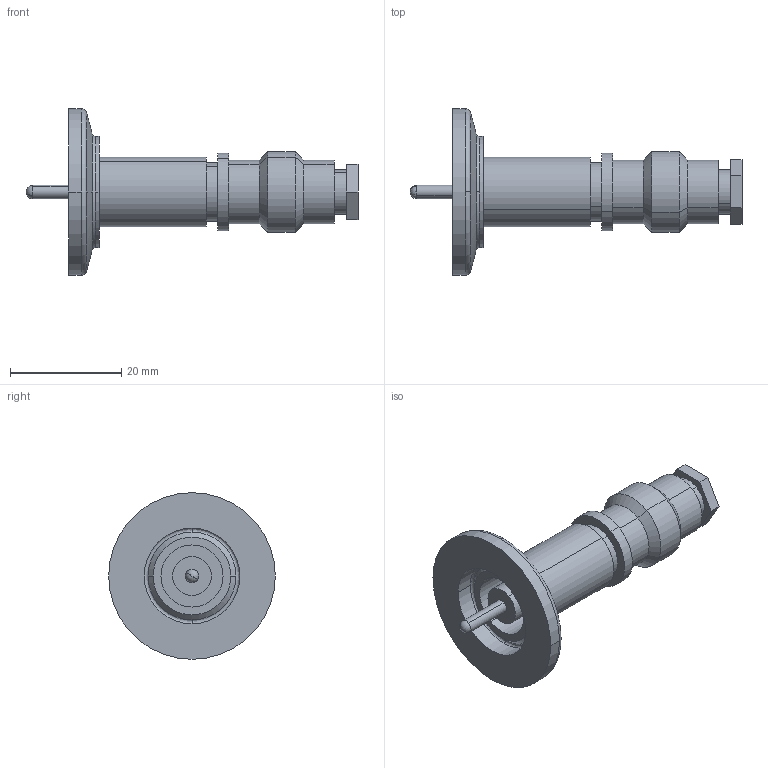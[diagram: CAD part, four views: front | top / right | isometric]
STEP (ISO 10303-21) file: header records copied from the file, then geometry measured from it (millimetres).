
FILE_DESCRIPTION((''),'2;1');
FILE_NAME('W:\214-151.stp','2004-01-23T14:03:42',('KAA'),(''),'Autodesk Inventor (R) 6.0','Autodesk Inventor (R) 6.0','');
FILE_SCHEMA(('CONFIG_CONTROL_DESIGN'));
Length unit declared in the file: millimetre
Products named in the file (1): 214-151
Bounding box: 59.8 x 30 x 30 mm (x, y, z)
Volume: 6827.2 mm3; surface area: 5198.2 mm2
Topology: 1 solids, 1 shells, 63 faces, 148 edges, 92 vertices
Faces by surface type: cylinder 26, plane 17, cone 8, bspline 8, torus 2, sphere 2
Entity records: 2105 total; most frequent: CARTESIAN_POINT 542, DIRECTION 340, ORIENTED_EDGE 284, AXIS2_PLACEMENT_3D 142, EDGE_CURVE 142, VERTEX_POINT 92, CIRCLE 86, EDGE_LOOP 74
